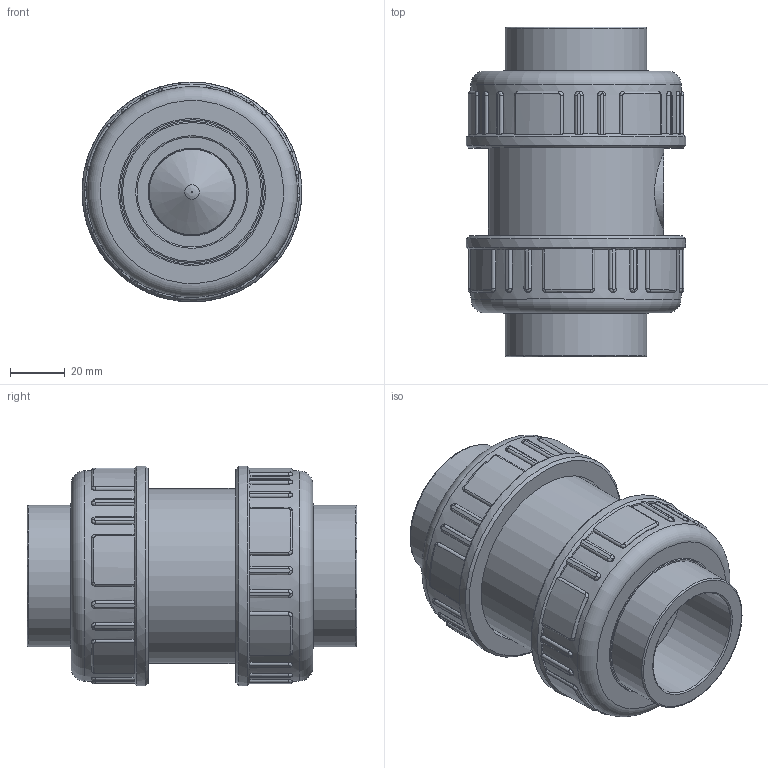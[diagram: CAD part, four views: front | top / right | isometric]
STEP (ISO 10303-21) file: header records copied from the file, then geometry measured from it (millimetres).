
FILE_DESCRIPTION(/* description */ (''),/* implementation_level */ '2;1');
FILE_NAME(/* name */ 'C:\Users\POLYPIPE\Desktop\DATASET INVENTOR\LIBRERIA EFFAST\3D_VALVOLE\3D_VALVOLE NON RITORNO\3D_CV\3D_CDRCVD\3D_CDRCVD0400.stp',/* time_stamp */ '2018-01-24T16:09:37+01:00',/* author */ ('POLYPIPE'),/* organization */ (''),/* preprocessor_version */ 'ST-DEVELOPER v16.1',/* originating_system */ 'Autodesk Inventor 2016',/* authorisation */ '');
FILE_SCHEMA (('CONFIG_CONTROL_DESIGN'));
Products named in the file (1): 3D_CDRCVD0400
Bounding box: 79.99 x 120 x 79.98 mm (x, y, z)
Volume: 270820.1 mm3; surface area: 96220.8 mm2
Topology: 4 solids, 5 shells, 558 faces, 1440 edges, 908 vertices
Faces by surface type: plane 205, cylinder 153, bspline 146, torus 44, cone 10
Full cylindrical faces by diameter (mm): 30.6 x1, 31.4 x1, 31.7 x1, 31.8 x1, 32 x2, 35.3 x2, 38.6 x1, 39 x1, 40 x2, 40.6 x1, 47 x1, 47.3 x1, 47.4 x1, 51.5 x2, 52.6 x2, 53 x1, 53.5 x2, 53.7 x1, 54.3 x1, 54.9 x1, 59.7 x2, 63.7 x1, 65.6 x2, 76.6 x2, 80 x2
Entity records: 61644 total; most frequent: CARTESIAN_POINT 48565, ORIENTED_EDGE 2712, DIRECTION 2322, EDGE_CURVE 1354, VERTEX_POINT 892, AXIS2_PLACEMENT_3D 891, EDGE_LOOP 660, STYLED_ITEM 559
